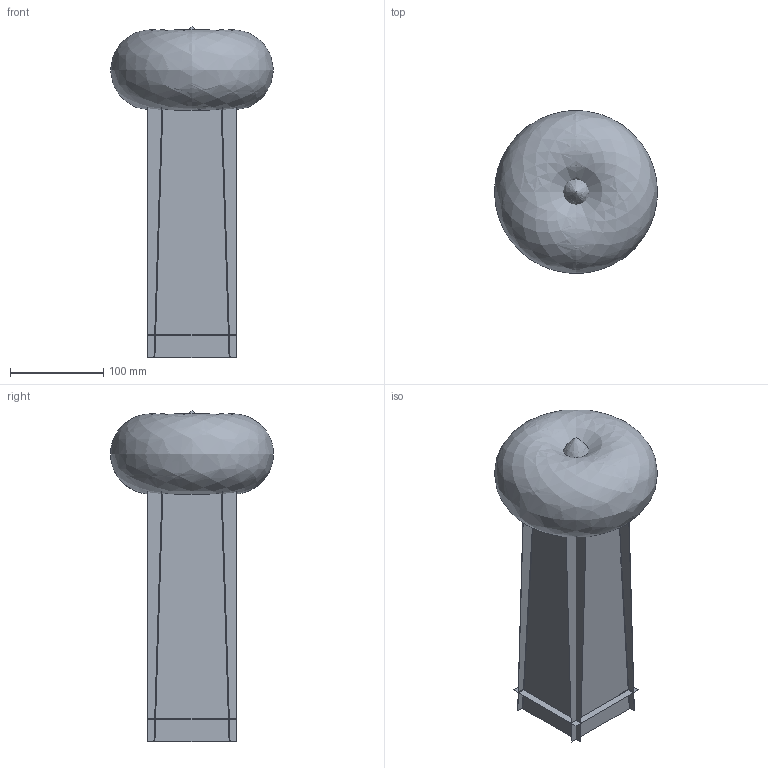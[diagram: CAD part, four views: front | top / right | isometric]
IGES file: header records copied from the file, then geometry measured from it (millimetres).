
Global section: file name: C:\Users\utente\Desktop\3d sito\PEDESTAL VASE NO 2\PEDESTAL VASE NO.2.igs; native system: Rhinoceros ( Mar  9 2011 ); preprocessor: Trout Lake IGES 012 Mar  9 2011; date: 170523.135305; units: millimetre
Bounding box: 174.6 x 174.61 x 355.38 mm (x, y, z)
Surface area: 493274.4 mm2 (no closed solid volume)
Topology: 0 solids, 0 shells, 90 faces, 240 edges, 158 vertices
Faces by surface type: bspline 90
